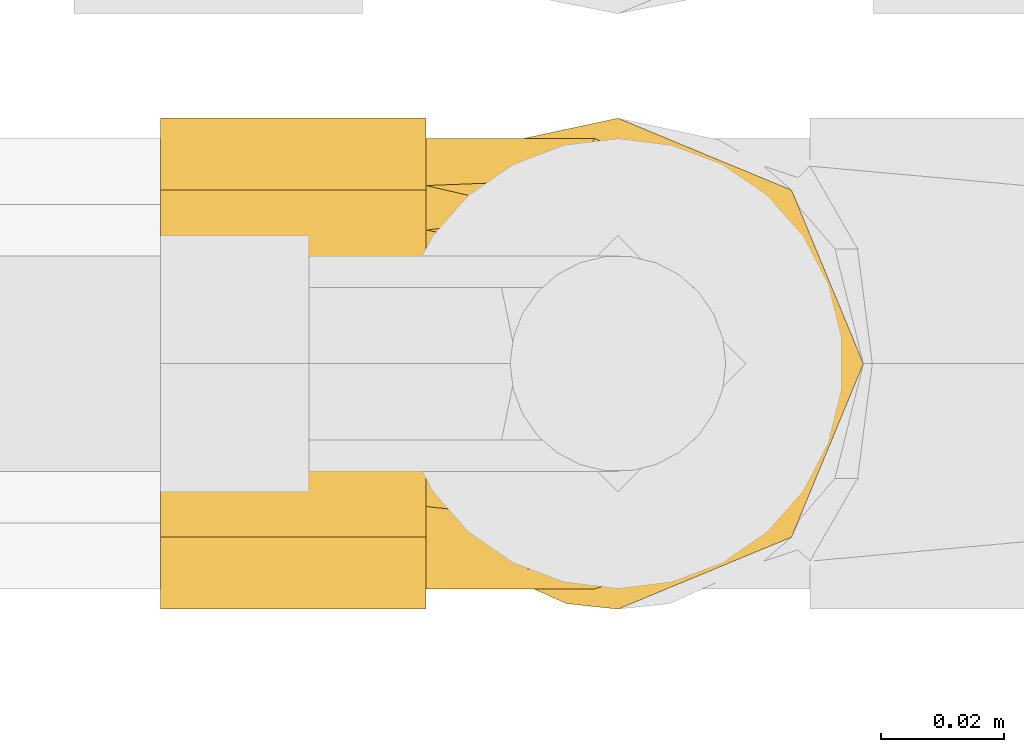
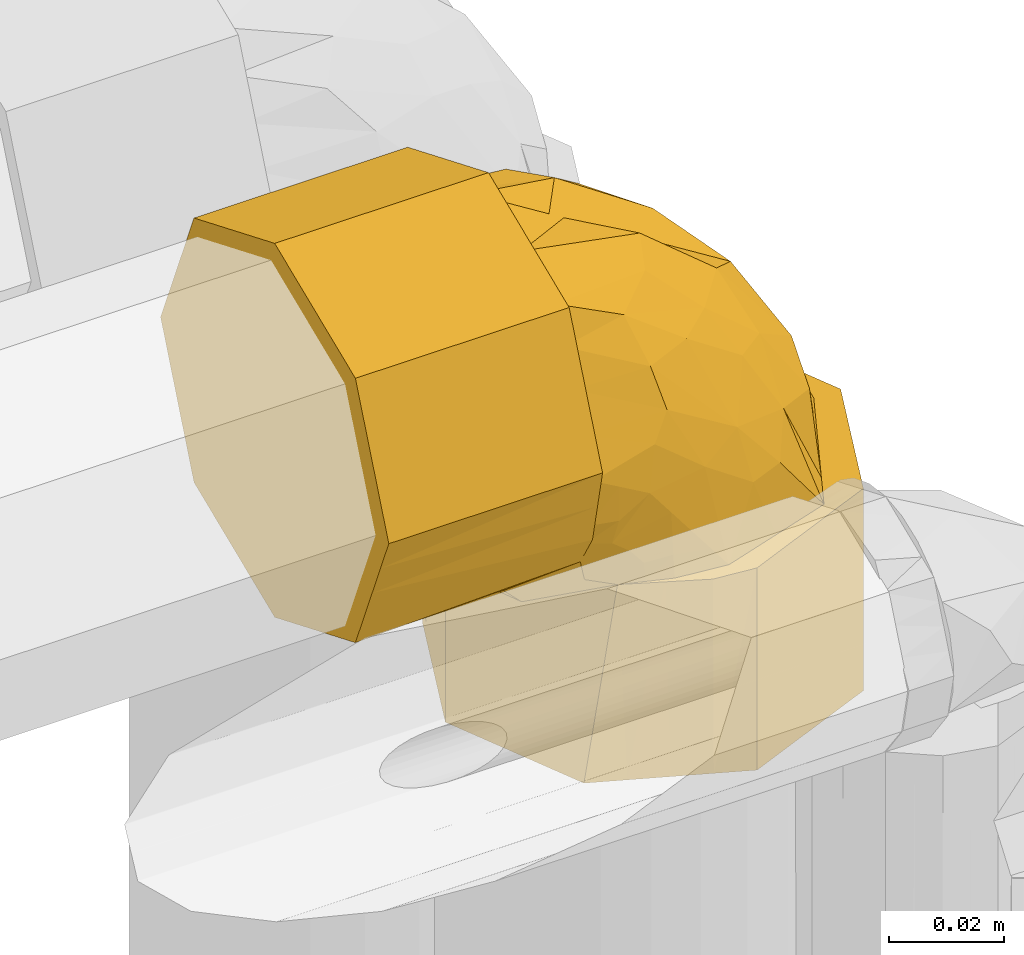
# One storey, part 180 of 652: 1 covering.
"""IFC2X3 building model written with IfcOpenShell, lengths in millimetres."""

from ifc_helpers import new_model, entity, si_unit, converted_unit, direction, frame, origin, place, context, subcontext, project, spatial, faceted_brep, material, type_object, element, save


model = new_model("IFC2X3")

# Units and contexts
model_context = context("Model", 3, precision=0.01, world=frame((0.0, 0.0, 308426.39999999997)), true_north=direction((6.123233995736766e-17, 1.0)))
plan_context = context("Plan", 3, precision=0.01, world=frame((0.0, 0.0, 308426.39999999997)), true_north=direction((6.123233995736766e-17, 1.0)))
body_context = subcontext(model_context, "Body", "Model", "MODEL_VIEW")
ifc_project = project(units=[si_unit("LENGTHUNIT", "METRE", prefix="MILLI"), si_unit("AREAUNIT", "SQUARE_METRE"), si_unit("VOLUMEUNIT", "CUBIC_METRE"), converted_unit("PLANEANGLEUNIT", "DEGREE", entity("IfcPlaneAngleMeasure", 0.017453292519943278), si_unit("PLANEANGLEUNIT", "RADIAN"), dimensions=[0, 0, 0, 0, 0, 0, 0])], contexts=[model_context, plan_context])

# Site, building, storey
site_placement = place(None, origin())
site = spatial("IfcSite", under=ifc_project, at=site_placement, Name="Default", CompositionType="ELEMENT")
building_placement = place(site_placement, origin())
building = spatial("IfcBuilding", under=site, at=building_placement, CompositionType="ELEMENT")
storey_placement = place(building_placement, frame((0.0, 0.0, 1730.6999999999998)))
storey = spatial("IfcBuildingStorey", under=building, at=storey_placement, Name="EG_Produktion_FFB", CompositionType="ELEMENT", Elevation=1730.6999999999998)

# Covering
ifc_material = material(Name="Dämmung - Armaflex-Schlauch")
covering_type = type_object("IfcCoveringType", Name="Rohrdämmung außen:Armaflex-Schlauch", PredefinedType="INSULATION")
covering_placement = place(storey_placement, frame((69425.91575000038, 40733.64672776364, 3841.353272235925)))
element("IfcCovering", 1, at=covering_placement, inside=storey, type_object=covering_type, material=ifc_material, Name="Rohrdämmung außen:Armaflex-Schlauch", ObjectType="Rohrdämmung außen:Armaflex-Schlauch", PredefinedType="INSULATION", context=body_context, shape_type="Brep", body=[
    faceted_brep([(43.00574999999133, 6.083537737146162, -55.29344606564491), (43.00574999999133, 5.617026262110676, -51.30566939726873), (43.00574999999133, 4.890772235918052, -45.09759303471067), (43.00574999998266, 8.331864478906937, -37.461729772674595), (43.00574999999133, 11.772956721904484, -29.82586651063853), (43.00574999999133, 14.99997398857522, -22.66504057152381), (43.00574999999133, 18.22699125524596, -15.504214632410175), (43.00574999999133, 29.790131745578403, -11.253230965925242), (43.00574999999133, 41.35327223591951, -7.002247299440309), (43.00574999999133, 48.56469745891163, -10.648721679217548), (43.00574999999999, 55.776122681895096, -14.295196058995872), (43.00574999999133, 62.98754790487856, -17.941670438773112), (43.00574999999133, 70.19897312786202, -21.588144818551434), (43.00574999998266, 72.58148097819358, -28.941817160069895), (43.00574999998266, 75.19862660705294, -37.01970509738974), (43.00574999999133, 77.81577223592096, -45.09759303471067), (43.00574999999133, 77.08951820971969, -51.305669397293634), (43.00574999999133, 76.62300673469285, -55.29344606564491), (43.00574999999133, 74.98470757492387, -60.125242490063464), (43.00574999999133, 73.34640841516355, -64.95703891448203), (43.00574999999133, 76.78343970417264, -57.33963358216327), (43.00574999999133, 80.22047099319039, -49.72222824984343), (43.00574999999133, 81.11127223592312, -41.35327223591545), (43.00574999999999, 77.7993156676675, -33.357501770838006), (43.00574999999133, 75.28884793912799, -27.29669653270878), (43.00574999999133, 72.37763579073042, -20.26840868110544), (43.00574999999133, 69.46642364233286, -13.240120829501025), (43.00574999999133, 62.43813579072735, -10.32890868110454), (43.00574999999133, 55.409847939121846, -7.417696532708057), (43.00574999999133, 48.38156008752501, -4.506484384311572), (43.00574999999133, 41.35327223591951, -1.5952722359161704), (43.00574999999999, 33.35750170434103, -4.90722883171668), (43.00574999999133, 27.29669653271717, -7.417696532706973), (43.00574999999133, 20.26840868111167, -10.32890868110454), (43.00574999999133, 13.240120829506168, -13.240120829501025), (43.00574999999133, 10.3289086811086, -20.26840868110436), (43.00574999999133, 7.417696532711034, -27.296696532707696), (43.00574999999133, 4.907228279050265, -33.35750303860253), (43.00574999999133, 1.5952722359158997, -41.35327223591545), (43.00574999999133, 3.3544632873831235, -49.529283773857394), (43.00574999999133, 5.113654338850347, -57.70529531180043), (43.00574999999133, 9.36013605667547, -64.95703891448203), (43.00574999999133, 7.721836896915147, -60.125242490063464), (0.0, 78.20006008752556, -48.381560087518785), (0.0, 75.28884793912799, -55.409847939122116), (0.0, 72.37763579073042, -62.438135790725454), (0.0, 69.46642364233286, -69.46642364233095), (0.0, 62.43813579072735, -72.37763579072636), (0.0, 55.409847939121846, -75.28884793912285), (0.0, 49.349042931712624, -77.79931557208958), (0.0, 41.35327223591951, -81.1112722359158), (0.0, 33.357503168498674, -77.79931624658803), (0.0, 27.296696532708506, -75.28884793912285), (0.0, 20.26840868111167, -72.37763579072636), (0.0, 13.240120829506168, -69.46642364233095), (0.0, 10.3289086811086, -62.438135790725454), (0.0, 7.417696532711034, -55.409847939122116), (0.0, 4.506484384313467, -48.381560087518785), (0.0, 1.5952722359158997, -41.35327223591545), (0.0, 4.506484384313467, -34.32498438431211), (0.0, 7.417696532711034, -27.296696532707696), (0.0, 10.3289086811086, -20.26840868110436), (0.0, 13.240120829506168, -13.240120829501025), (0.0, 20.26840868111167, -10.32890868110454), (0.0, 27.29669653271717, -7.417696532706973), (0.0, 34.32498438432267, -4.506484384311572), (0.0, 41.35327223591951, -1.5952722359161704), (0.0, 48.38156008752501, -4.506484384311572), (0.0, 55.409847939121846, -7.417696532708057), (0.0, 62.43813579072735, -10.32890868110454), (0.0, 69.46642364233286, -13.240120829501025), (0.0, 74.48735878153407, -25.36173053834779), (0.0, 77.7993155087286, -33.35750138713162), (0.0, 81.11127223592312, -41.35327223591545), (39.14313917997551, 66.64936056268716, -70.72483298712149), (32.88734533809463, 41.35327223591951, -81.1112722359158), (34.08393684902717, 50.65279247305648, -78.80194964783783), (35.280528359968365, 59.952312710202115, -76.49262705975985), (34.68223260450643, 55.3025525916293, -77.64728835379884), (39.14313917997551, 16.057183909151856, -70.72483298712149), (34.08393684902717, 32.05375199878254, -78.80194964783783), (35.280528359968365, 22.754231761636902, -76.49262705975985), (33.441725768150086, 37.04480775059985, -80.04136388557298), (74.08424999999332, 1.5952722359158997, -72.43177223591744), (82.08002040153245, 4.907228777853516, -72.43177223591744), (88.14082570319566, 7.417696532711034, -72.43177223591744), (95.16911355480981, 10.3289086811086, -72.43177223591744), (102.19740140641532, 13.240120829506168, -72.43177223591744), (105.10861355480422, 20.26840868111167, -72.43177223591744), (108.01982570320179, 27.29669653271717, -72.43177223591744), (110.53029398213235, 33.357503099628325, -72.43177223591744), (113.84224999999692, 41.35327223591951, -72.43177223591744), (110.5302935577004, 49.34904239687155, -72.43177223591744), (108.01982570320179, 55.409847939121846, -72.43177223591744), (105.10861355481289, 62.43813579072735, -72.43177223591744), (102.19740140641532, 69.46642364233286, -72.43177223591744), (95.16911355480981, 72.37763579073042, -72.43177223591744), (88.14082570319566, 75.28884793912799, -72.43177223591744), (81.11253785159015, 78.20006008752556, -72.43177223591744), (74.08424999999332, 81.11127223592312, -72.43177223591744), (65.90823846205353, 79.3520811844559, -72.43177223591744), (57.73222692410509, 77.59289013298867, -72.43177223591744), (50.48048332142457, 73.34640841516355, -72.43177223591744), (55.31227974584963, 74.98470757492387, -72.43177223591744), (60.144076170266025, 76.62300673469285, -72.43177223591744), (64.13185213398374, 77.08951812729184, -72.43177223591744), (67.2358906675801, 77.45264518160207, -72.43177223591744), (70.33992920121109, 77.81577223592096, -72.43177223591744), (77.74037965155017, 74.47922639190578, -72.43177223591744), (85.14083010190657, 71.14268054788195, -72.43177223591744), (92.54128055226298, 67.80613470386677, -72.43177223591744), (99.94173100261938, 64.4695888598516, -72.43177223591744), (102.06511698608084, 58.69050970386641, -72.43177223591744), (104.18850296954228, 52.91143054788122, -72.43177223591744), (108.43527493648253, 41.35327223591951, -72.43177223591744), (104.78589932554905, 34.139683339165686, -72.43177223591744), (101.1365237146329, 26.926094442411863, -72.43177223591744), (97.48714810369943, 19.712505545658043, -72.43177223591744), (93.83777249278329, 12.498916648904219, -72.43177223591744), (87.96331166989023, 10.596880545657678, -72.43177223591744), (82.08885084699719, 8.694844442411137, -72.43177223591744), (70.33992920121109, 4.890772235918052, -72.43177223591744), (67.23589066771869, 5.253899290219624, -72.43177223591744), (64.13185213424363, 5.617026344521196, -72.43177223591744), (60.144076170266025, 6.083537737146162, -72.43177223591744), (55.31227974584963, 7.721836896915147, -72.43177223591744), (50.48048332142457, 9.36013605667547, -72.43177223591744), (58.097888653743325, 5.923104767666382, -72.43177223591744), (65.71529398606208, 2.486073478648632, -72.43177223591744), (81.11253785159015, 78.20006008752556, -115.43752223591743), (88.14082570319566, 75.28884793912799, -115.43752223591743), (95.16911355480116, 72.37763579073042, -115.43752223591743), (102.19740140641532, 69.46642364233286, -115.43752223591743), (107.21833667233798, 57.34481362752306, -115.43752223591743), (110.53029333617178, 49.349042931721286, -115.43752223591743), (113.84224999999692, 41.35327223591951, -115.43752223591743), (110.93103785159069, 34.32498438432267, -115.43752223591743), (108.01982570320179, 27.29669653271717, -115.43752223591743), (105.10861355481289, 20.26840868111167, -115.43752223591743), (102.19740140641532, 13.240120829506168, -115.43752223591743), (95.16911355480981, 10.3289086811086, -115.43752223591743), (88.14082570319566, 7.417696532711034, -115.43752223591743), (81.11253785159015, 4.506484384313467, -115.43752223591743), (74.08424999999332, 1.5952722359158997, -115.43752223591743), (67.05596214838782, 4.506484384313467, -115.43752223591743), (60.02767429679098, 7.417696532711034, -115.43752223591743), (52.99938644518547, 10.3289086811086, -115.43752223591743), (45.971098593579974, 13.240120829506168, -115.43752223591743), (43.05988644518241, 20.26840868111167, -115.43752223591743), (40.14867429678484, 27.29669653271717, -115.43752223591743), (37.63820673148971, 33.35750137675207, -115.43752223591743), (34.32624999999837, 41.35327223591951, -115.43752223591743), (37.63820599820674, 49.34904132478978, -115.43752223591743), (40.14867429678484, 55.409847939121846, -115.43752223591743), (43.05988644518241, 62.43813579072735, -115.43752223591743), (45.971098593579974, 69.46642364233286, -115.43752223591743), (52.99938644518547, 72.37763579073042, -115.43752223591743), (60.02767429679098, 75.28884793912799, -115.43752223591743), (66.08847915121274, 77.7993155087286, -115.43752223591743), (74.08424999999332, 81.11127223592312, -115.43752223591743), (34.326249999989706, 41.35327223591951, -82.55017689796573), (36.63557258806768, 50.65279247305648, -81.3535853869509), (38.94489517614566, 59.95231271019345, -80.15699387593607), (36.46606666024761, 49.97020104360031, -81.44141605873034), (44.71268924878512, 66.6493605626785, -76.29438305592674), (44.71268924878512, 16.057183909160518, -76.29438305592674), (36.63557258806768, 32.05375199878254, -81.3535853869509), (38.94489517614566, 22.754231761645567, -80.15699387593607), (36.46606666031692, 32.73634342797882, -81.4414160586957), (35.39615833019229, 37.04480783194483, -81.99579647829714), (87.24641648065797, 70.58224481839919, -57.27123137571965), (59.264167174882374, 70.83707710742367, -29.193847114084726), (64.79374823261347, 74.32798861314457, -40.00181649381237), (54.44461824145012, 77.81577223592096, -51.665813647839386), (57.53690591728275, 77.00215070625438, -44.4278991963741), (69.53966351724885, 76.88875438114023, -55.10669322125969), (78.61751170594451, 68.42118911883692, -40.74524993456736), (63.635451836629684, 65.41959260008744, -24.864680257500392), (91.69909945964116, 41.35327223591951, -37.51558616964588), (97.0944354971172, 49.419286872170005, -46.80160812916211), (80.91983021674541, 49.772731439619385, -27.552566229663), (55.179087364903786, 41.35327223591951, -14.63058201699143), (61.704602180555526, 50.77782717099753, -14.912364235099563), (81.91303386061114, 62.1795598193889, -36.22272357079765), (68.51539346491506, 77.81577223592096, -70.04816151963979), (66.6908577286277, 77.81577223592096, -67.66455080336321), (63.04178625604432, 77.81577223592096, -62.897329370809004), (58.74320224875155, 77.81577223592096, -57.281571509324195), (92.25168823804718, 65.51319346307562, -54.94336486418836), (71.24462333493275, 59.20066225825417, -24.559357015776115), (57.411109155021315, 60.21657287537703, -17.330981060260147), (92.66741072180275, 58.18811212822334, -45.836129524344), (84.61256912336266, 55.84987819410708, -33.94288682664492), (100.06718719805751, 41.35327223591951, -54.97367920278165), (100.62176107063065, 41.35327223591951, -56.13067021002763), (67.35242472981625, 41.35327223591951, -22.258916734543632), (73.31662804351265, 41.35327223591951, -25.996342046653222), (79.5257620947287, 41.35327223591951, -29.887251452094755), (100.50080532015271, 55.74445137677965, -57.752906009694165), (78.60353708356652, 73.7993394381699, -53.091887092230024), (58.161189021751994, 41.35327223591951, -16.499294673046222), (48.25776996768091, 77.81577223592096, -48.1133132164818), (48.6114223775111, 77.16648559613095, -55.88980313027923), (47.904704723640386, 75.95462844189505, -61.14799943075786), (33.6337159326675, 41.35327223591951, -81.80380630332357), (51.4591566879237, 76.0357200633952, -63.97836606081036), (44.908883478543, 71.49570768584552, -70.52863846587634), (54.28952252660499, 75.95462822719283, -67.53281820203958), (59.518701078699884, 77.15152320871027, -66.92088050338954), (48.6114223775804, 5.540058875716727, -55.88980313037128), (48.25776996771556, 4.890772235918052, -48.11331321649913), (44.90888338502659, 11.210837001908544, -70.52863882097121), (51.45915593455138, 6.670824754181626, -63.978366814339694), (47.90470469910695, 6.7519160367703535, -61.14799943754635), (58.74320224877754, 4.890772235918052, -57.281571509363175), (54.28952251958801, 6.7519162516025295, -67.53281822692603), (59.518701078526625, 5.555021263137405, -66.92088050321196), (66.6908577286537, 4.890772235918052, -67.66455080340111), (54.44461824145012, 4.890772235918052, -51.665813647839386), (68.51539346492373, 4.890772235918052, -70.04816151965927), (63.041786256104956, 4.89077223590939, -62.897329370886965), (59.61186262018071, 7.90055709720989, -37.54867793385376), (58.14792793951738, 11.144292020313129, -29.753616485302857), (76.41301603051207, 6.907352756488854, -58.23539538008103), (83.37405497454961, 31.821832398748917, -30.21968406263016), (79.87091005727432, 16.763579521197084, -38.43788537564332), (74.4438185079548, 9.117077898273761, -47.15067212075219), (86.90253298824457, 14.598856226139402, -50.85120006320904), (66.0986310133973, 5.892051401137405, -50.71304963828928), (55.988582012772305, 5.886693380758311, -42.398132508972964), (67.81026209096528, 15.338625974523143, -29.782072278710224), (86.64625364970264, 22.521459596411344, -39.604136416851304), (98.35278997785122, 31.617498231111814, -49.78456672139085), (96.79734628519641, 22.69544496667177, -54.986101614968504), (83.3350649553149, 9.61944594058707, -58.13081411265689), (64.8027936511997, 24.56861790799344, -19.784818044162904), (74.76137203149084, 21.067876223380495, -29.107014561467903), (55.99524376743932, 16.734184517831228, -21.4189015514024), (68.64794002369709, 33.08278710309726, -18.40551201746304)], [[[0, 1, 2, 3, 4, 5, 6, 7, 8, 9, 10, 11, 12, 13, 14, 15, 16, 17, 18, 19, 20, 21, 22, 23, 24, 25, 26, 27, 28, 29, 30, 31, 32, 33, 34, 35, 36, 37, 38, 39, 40, 41, 42]], [[43, 44, 45, 46, 47, 48, 49, 50, 51, 52, 53, 54, 55, 56, 57, 58, 59, 60, 61, 62, 63, 64, 65, 66, 67, 68, 69, 70, 71, 72, 73]], [[47, 46, 74]], [[75, 50, 49]], [[76, 75, 49]], [[48, 77, 78, 76]], [[47, 74, 77]], [[44, 20, 45]], [[43, 21, 44]], [[46, 19, 74]], [[77, 48, 47]], [[44, 21, 20]], [[43, 22, 21]], [[48, 76, 49]], [[43, 73, 22]], [[45, 20, 19]], [[19, 46, 45]], [[23, 22, 73, 72, 71, 70, 26, 25, 24]], [[26, 70, 69, 68, 67, 66, 30, 29, 28, 27]], [[38, 37, 36, 35, 34, 62, 61, 60, 59, 58]], [[30, 66, 65, 64, 63, 62, 34, 33, 32, 31]], [[56, 40, 39]], [[53, 79, 54]], [[39, 57, 56]], [[41, 55, 54]], [[40, 55, 41]], [[80, 52, 51]], [[52, 80, 81]], [[58, 57, 38]], [[51, 75, 82, 80]], [[38, 57, 39]], [[79, 53, 81]], [[55, 40, 56]], [[51, 50, 75]], [[53, 52, 81]], [[79, 41, 54]], [[83, 84, 85, 86, 87, 88, 89, 90, 91, 92, 93, 94, 95, 96, 97, 98, 99, 100, 101, 102, 103, 104, 105, 106, 107, 108, 109, 110, 111, 112, 113, 114, 115, 116, 117, 118, 119, 120, 121, 122, 123, 124, 125, 126, 127, 128]], [[129, 130, 131, 132, 133, 134, 135, 136, 137, 138, 139, 140, 141, 142, 143, 144, 145, 146, 147, 148, 149, 150, 151, 152, 153, 154, 155, 156, 157, 158, 159]], [[135, 134, 133, 132, 95, 94, 93, 92, 91]], [[95, 132, 131, 130, 129, 159, 99, 98, 97, 96]], [[159, 158, 157, 100]], [[101, 156, 102]], [[99, 159, 100]], [[101, 100, 157]], [[152, 151, 160]], [[102, 156, 155]], [[153, 161, 162]], [[161, 153, 152]], [[152, 160, 163, 161]], [[154, 164, 155]], [[164, 154, 162]], [[156, 101, 157]], [[154, 153, 162]], [[164, 102, 155]], [[148, 147, 165]], [[149, 166, 150]], [[166, 149, 167]], [[160, 151, 150]], [[148, 165, 167]], [[145, 127, 146]], [[144, 128, 145]], [[147, 126, 165]], [[167, 149, 148]], [[145, 128, 127]], [[144, 83, 128]], [[150, 166, 168, 169, 160]], [[144, 143, 83]], [[146, 127, 126]], [[126, 147, 146]], [[91, 90, 89, 88, 87, 139, 138, 137, 136, 135]], [[141, 140, 139, 87, 86, 85, 84, 83, 143, 142]], [[109, 170, 110]], [[13, 171, 172]], [[14, 13, 172]], [[173, 174, 175]], [[176, 171, 177]], [[15, 14, 174]], [[178, 179, 180]], [[9, 181, 182]], [[172, 175, 174]], [[13, 12, 171]], [[12, 11, 177]], [[176, 177, 183]], [[175, 107, 184, 185, 186, 187, 173]], [[188, 170, 176]], [[176, 172, 171]], [[189, 190, 182]], [[11, 10, 190]], [[177, 11, 190]], [[170, 188, 110]], [[191, 183, 192]], [[179, 178, 193, 194]], [[182, 190, 10]], [[189, 182, 180]], [[177, 190, 189]], [[182, 10, 9]], [[182, 195, 180]], [[177, 189, 183]], [[177, 171, 12]], [[180, 195, 196, 197, 178]], [[113, 179, 194]], [[112, 111, 198, 113]], [[198, 111, 188]], [[194, 114, 113]], [[179, 191, 192]], [[199, 175, 172]], [[199, 108, 175]], [[172, 176, 199]], [[188, 111, 110]], [[199, 170, 109]], [[183, 188, 176]], [[108, 199, 109]], [[188, 191, 198]], [[108, 107, 175]], [[176, 170, 199]], [[192, 189, 180]], [[188, 183, 191]], [[189, 192, 183]], [[179, 192, 180]], [[181, 9, 8]], [[182, 181, 200, 195]], [[191, 179, 198]], [[179, 113, 198]], [[174, 173, 201, 15]], [[172, 174, 14]], [[173, 202, 201]], [[173, 187, 203]], [[18, 203, 19]], [[201, 17, 16, 15]], [[204, 76, 163]], [[74, 164, 162, 77]], [[163, 76, 78, 77, 162, 161]], [[205, 102, 206]], [[206, 164, 74]], [[106, 105, 104, 185, 184, 107]], [[205, 207, 102]], [[186, 185, 208, 187]], [[204, 75, 76]], [[163, 160, 204]], [[205, 206, 19]], [[164, 206, 102]], [[203, 205, 19]], [[19, 206, 74]], [[201, 202, 17]], [[17, 202, 18]], [[203, 202, 173]], [[18, 202, 203]], [[102, 207, 103]], [[103, 208, 104]], [[207, 205, 187]], [[208, 103, 207]], [[208, 185, 104]], [[187, 208, 207]], [[203, 187, 205]], [[204, 160, 169]], [[209, 210, 0]], [[169, 168, 166, 167, 81, 80, 82]], [[41, 211, 212]], [[1, 0, 210, 2]], [[213, 212, 214]], [[204, 169, 82]], [[79, 165, 211]], [[126, 125, 215]], [[212, 211, 126]], [[204, 82, 75]], [[167, 165, 79, 81]], [[216, 124, 217]], [[218, 209, 213]], [[122, 121, 219, 217, 124, 123]], [[41, 79, 211]], [[211, 165, 126]], [[209, 0, 42]], [[125, 124, 216]], [[126, 215, 212]], [[125, 216, 215]], [[220, 214, 216, 217]], [[213, 42, 41]], [[212, 213, 41]], [[210, 209, 218]], [[214, 212, 215]], [[209, 42, 213]], [[215, 216, 214]], [[218, 213, 214]], [[4, 221, 222]], [[223, 121, 120]], [[224, 178, 197, 196]], [[225, 226, 227]], [[228, 226, 221]], [[229, 218, 228]], [[222, 226, 230]], [[231, 232, 224]], [[3, 229, 221]], [[233, 232, 231]], [[234, 223, 120]], [[229, 2, 210, 218]], [[224, 235, 236]], [[4, 3, 221]], [[228, 218, 214, 220, 217, 219, 121]], [[237, 222, 230]], [[6, 235, 7]], [[235, 6, 237]], [[238, 200, 7]], [[228, 223, 226]], [[224, 238, 235]], [[234, 226, 223]], [[227, 117, 233]], [[193, 232, 115]], [[224, 232, 178]], [[115, 114, 194, 193]], [[235, 237, 236]], [[238, 224, 196]], [[226, 222, 221]], [[222, 237, 5]], [[5, 237, 6]], [[5, 4, 222]], [[237, 230, 236]], [[7, 200, 181, 8]], [[7, 235, 238]], [[238, 196, 195, 200]], [[227, 118, 117]], [[193, 178, 232]], [[231, 236, 225]], [[233, 117, 116]], [[232, 233, 116]], [[227, 233, 231]], [[229, 3, 2]], [[228, 221, 229]], [[121, 223, 228]], [[119, 118, 234, 120]], [[234, 118, 227]], [[227, 226, 234]], [[232, 116, 115]], [[225, 236, 230]], [[224, 236, 231]], [[226, 225, 230]], [[231, 225, 227]]]),
])

save(model, "model.ifc")
